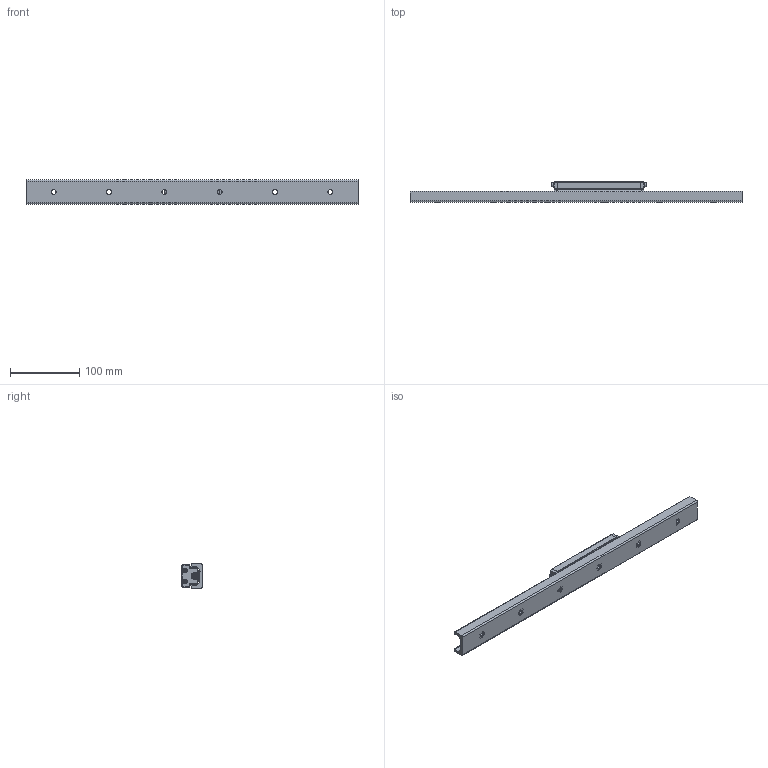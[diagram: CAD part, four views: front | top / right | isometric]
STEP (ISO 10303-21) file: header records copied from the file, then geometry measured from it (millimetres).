
FILE_DESCRIPTION(/* description */ ('STEP AP214'),/* implementation_level */ '2;1');
FILE_NAME(/* name */ 'AWG35RA1SS+480L(2000)',/* time_stamp */ '2024-10-17T13:43:27+02:00',/* author */ ('License CC BY-ND 4.0'),/* organization */ ('CADENAS'),/* preprocessor_version */ 'ST-DEVELOPER v19.3',/* originating_system */ 'PARTsolutions',/* authorisation */ ' ');
FILE_SCHEMA (('AUTOMOTIVE_DESIGN {1 0 10303 214 3 1 1}'));
Length unit declared in the file: millimetre
Products named in the file (5): AWG35RA1SS+480L(2000); AWG35RA1SS+480L A-M6F 200 0_rail; AWG35RA1SS+480L_carriage; AWG35RA_SSL_seal; AWG-RA_A-M6F_grease_nipple
Assembly tree (6 placements, depth 2):
  AWG35RA1SS+480L(2000)
    AWG35RA1SS+480L A-M6F 200 0_rail
    AWG35RA1SS+480L_carriage
    AWG35RA_SSL_seal  x2
    AWG-RA_A-M6F_grease_nipple  x2
Bounding box: 480 x 30 x 35 mm (x, y, z)
Volume: 184587.2 mm3; surface area: 94305.5 mm2
Topology: 6 solids, 12 shells, 908 faces, 2273 edges, 1472 vertices
Faces by surface type: plane 460, cylinder 299, cone 94, torus 43, sphere 8, bspline 4
Full cylindrical faces by diameter (mm): 2 x8, 2.46 x4, 3 x4, 3.2 x4, 3.7 x2, 4.08 x3, 4.13 x3, 4.917 x4, 5 x3, 5.19 x2, 5.3 x3, 5.5 x7, 6 x2, 6.5 x2, 7 x10, 8 x3, 8.5 x3, 8.9 x2, 9 x5, 10 x3, 11 x9, 13 x5, 14.7 x6, 22.5 x6
Entity records: 22239 total; most frequent: CARTESIAN_POINT 4180, DIRECTION 3819, ORIENTED_EDGE 3466, EDGE_CURVE 1733, AXIS2_PLACEMENT_3D 1456, VERTEX_POINT 1224, FACE_BOUND 1033, EDGE_LOOP 1024
